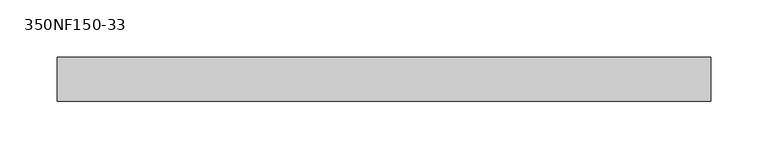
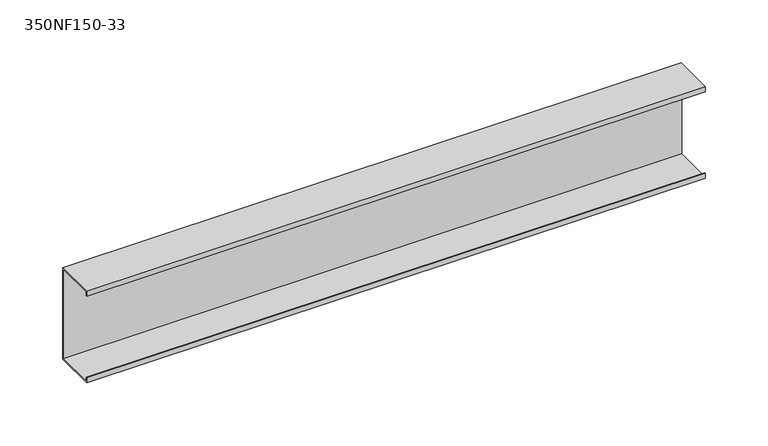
"""IFC4 building model written with IfcOpenShell, lengths in millimetres: beam geometry, BIMSF-SSMA-S : 350NF150-33."""

from ifc_helpers import new_model, si_unit, frame, origin, place, context, project, spatial, polyline, outline, extrude, source, transform, mapped, element, save


def beam_350nf150_33_34e1ec87(model_context):
    return source(origin(), model_context, "Body", "SweptSolid", [
        extrude(outline(polyline([(19.05, 44.45), (19.05, -44.45), (-19.05, -44.45), (-19.05, -39.6748), (-18.1676842, -39.6748), (-18.1676842, -43.5676842), (18.1676842, -43.5676842), (18.1676842, 43.5676842), (-18.1676842, 43.5676842), (-18.1676842, 39.6748), (-19.05, 39.6748), (-19.05, 44.45), (19.05, 44.45)])), frame((-284.1625, 0.0, 0.0), z_axis=(1.0, 0.0, 0.0), x_axis=(0.0, 1.0, 0.0)), (0.0, 0.0, 1.0), 568.325),
    ])


if __name__ == "__main__":
    model = new_model("IFC4")
    model_context = context("Model", 3, world=origin())
    ifc_project = project(units=[si_unit("LENGTHUNIT", "METRE", prefix="MILLI")], contexts=[model_context])
    site = spatial("IfcSite", under=ifc_project)
    building = spatial("IfcBuilding", under=site)
    placement = place(None, origin())
    beam_350nf150_33_shape = beam_350nf150_33_34e1ec87(model_context)
    element("IfcBeam", 1, ObjectType="BIMSF-SSMA-S : 350NF150-33", at=placement, inside=building, context=model_context, shape_type="MappedRepresentation", body=[
        mapped(beam_350nf150_33_shape, transform((0.0, 0.0, 0.0), x_axis=(1.0, 0.0, 0.0), y_axis=(0.0, 1.0, 0.0), z_axis=(0.0, 0.0, 1.0))),
    ])
    save(model, "model.ifc")
